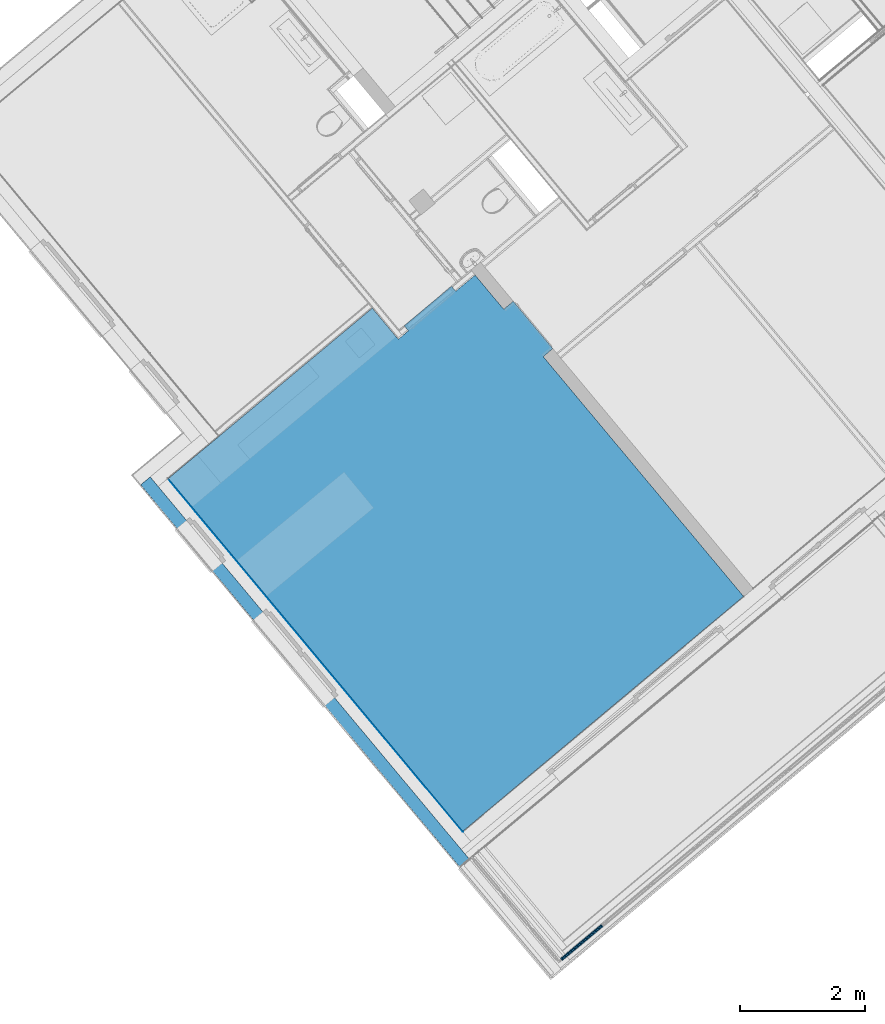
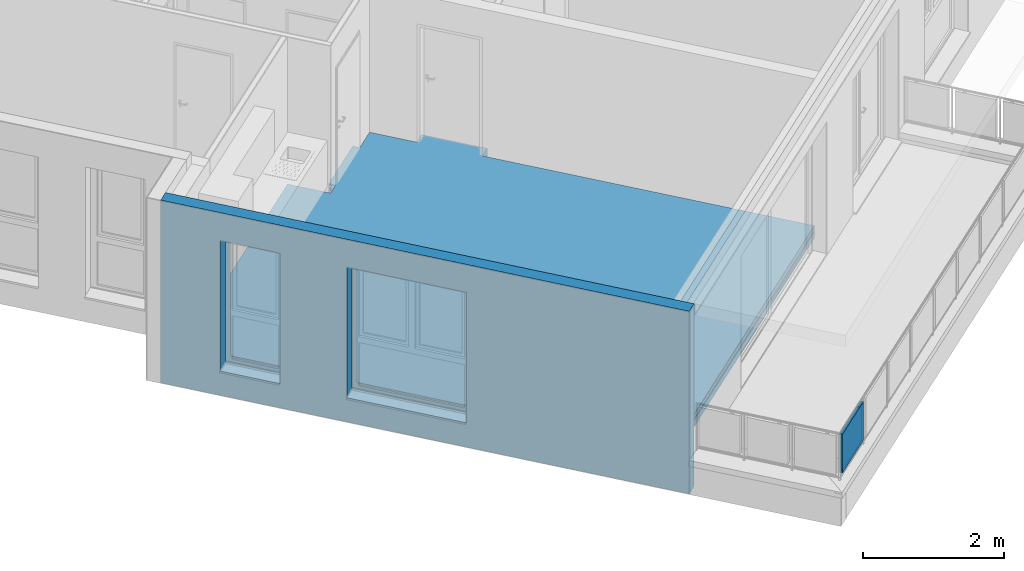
# One storey, part 15 of 50: 8 building element parts, 2 openings, 3 elements without a shape of their own.
"""IFC4 building model written with IfcOpenShell, lengths in metres."""

from ifc_helpers import new_model, entity, si_unit, converted_unit, derived_unit, direction, frame, origin_with_axes, place, context, subcontext, project, spatial, polygons, material, type_object, element, aggregate, save


model = new_model("IFC4")

# Units and contexts
model_context = context("Model", 3, precision=1e-05, world=origin_with_axes(), true_north=direction((0.0, 1.0)))
body_context = subcontext(model_context, "Body", "Model", "MODEL_VIEW")
ifc_project = project(units=[si_unit("LENGTHUNIT", "METRE"), si_unit("AREAUNIT", "SQUARE_METRE"), si_unit("VOLUMEUNIT", "CUBIC_METRE"), converted_unit("PLANEANGLEUNIT", "DEGREE", entity("IfcPlaneAngleMeasure", 0.0174532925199), si_unit("PLANEANGLEUNIT", "RADIAN"), dimensions=[0, 0, 0, 0, 0, 0, 0]), converted_unit("TIMEUNIT", "Year", entity("IfcTimeMeasure", 31556926.0), si_unit("TIMEUNIT", "SECOND"), dimensions=[0, 0, 1, 0, 0, 0, 0]), si_unit("MASSUNIT", "GRAM", prefix="KILO"), si_unit("THERMODYNAMICTEMPERATUREUNIT", "DEGREE_CELSIUS"), si_unit("LUMINOUSINTENSITYUNIT", "LUMEN"), si_unit("ENERGYUNIT", "JOULE", prefix="MEGA"), derived_unit("THERMALCONDUCTANCEUNIT", [(si_unit("POWERUNIT", "WATT"), 1), (si_unit("LENGTHUNIT", "METRE"), -1), (si_unit("THERMODYNAMICTEMPERATUREUNIT", "KELVIN"), -1)]), derived_unit("SPECIFICHEATCAPACITYUNIT", [(si_unit("ENERGYUNIT", "JOULE"), 1), (si_unit("MASSUNIT", "GRAM", prefix="KILO"), -1), (si_unit("THERMODYNAMICTEMPERATUREUNIT", "KELVIN"), -1)]), derived_unit("MASSDENSITYUNIT", [(si_unit("MASSUNIT", "GRAM", prefix="KILO"), 1), (si_unit("VOLUMEUNIT", "CUBIC_METRE"), -1)])], contexts=[model_context])

# Site, building, storey
site_placement = place(None, frame((-0.00153261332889, -0.00661245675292, 0.0), z_axis=(0.0, 0.0, 1.0), x_axis=(1.0, 0.0, 0.0)))
site = spatial("IfcSite", under=ifc_project, at=site_placement, Name="Site", CompositionType="ELEMENT")
building_placement = place(site_placement, origin_with_axes())
building = spatial("IfcBuilding", under=site, at=building_placement, Name="Building", CompositionType="ELEMENT")
storey_placement = place(building_placement, frame((0.0, 0.0, 2.74), z_axis=(0.0, 0.0, 1.0), x_axis=(1.0, 0.0, 0.0)))
storey = spatial("IfcBuildingStorey", under=building, at=storey_placement, Name="OG1", CompositionType="ELEMENT", Elevation=2.74)

# Wall, openings, building element parts
wall_type = type_object("IfcWallType", Name="AW EG 420", PredefinedType="NOTDEFINED")
wall_placement = place(storey_placement, frame((-6.29613032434, 14.5060652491, -0.2), z_axis=(0.0, 0.0, 1.0), x_axis=(0.640908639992, -0.767617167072, 0.0)))
wall = element("IfcWall", 1, at=wall_placement, inside=storey, type_object=wall_type, Name="Wand-003", PredefinedType="NOTDEFINED")
opening_1_placement = place(wall_placement, frame((3.93119741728, 0.0, 0.42), z_axis=(0.0, 0.0, 1.0), x_axis=(1.0, 0.0, 0.0)))
element("IfcOpeningElement", 2, at=opening_1_placement, cuts=wall, Name="Fenster-001", context=body_context, identifier="Reference", shape_type="Tessellation", body=[
    polygons([(0.9, 0.215, 0.0), (0.9, 0.215, 2.26), (0.9, -4.04027070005, 2.26), (0.9, -4.04027070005, 0.0), (0.9, 4.46027070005, 0.0), (0.9, 4.46027070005, 2.26), (-0.9, 0.215, 2.26), (-0.9, -4.04027070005, 2.26), (-0.9, 4.46027070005, 2.26), (-0.9, -4.04027070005, 0.0), (-0.9, 0.215, 0.0), (-0.9, 4.46027070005, 0.0)], [[[1, 2, 3, 4]], [[2, 1, 5, 6]], [[7, 8, 3, 2, 6, 9]], [[8, 10, 4, 3]], [[1, 4, 10, 11, 12, 5]], [[6, 5, 12, 9]], [[7, 11, 10, 8]], [[11, 7, 9, 12]]], closed=True),
])
opening_2_placement = place(wall_placement, frame((1.57118282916, 0.0, 0.42), z_axis=(0.0, 0.0, 1.0), x_axis=(1.0, 0.0, 0.0)))
element("IfcOpeningElement", 3, at=opening_2_placement, cuts=wall, Name="Fenster-001", context=body_context, identifier="Reference", shape_type="Tessellation", body=[
    polygons([(0.45, 0.215, 0.0), (0.45, 0.215, 2.26), (0.45, -4.04027070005, 2.26), (0.45, -4.04027070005, 0.0), (0.45, 4.46027070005, 0.0), (0.45, 4.46027070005, 2.26), (-0.45, 0.215, 2.26), (-0.45, -4.04027070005, 2.26), (-0.45, 4.46027070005, 2.26), (-0.45, -4.04027070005, 0.0), (-0.45, 0.215, 0.0), (-0.45, 4.46027070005, 0.0)], [[[1, 2, 3, 4]], [[2, 1, 5, 6]], [[7, 8, 3, 2, 6, 9]], [[8, 10, 4, 3]], [[1, 4, 10, 11, 12, 5]], [[6, 5, 12, 9]], [[7, 11, 10, 8]], [[11, 7, 9, 12]]], closed=True),
])
ifc_material_1 = material(Name="Zementputz")
building_element_part_1_placement = place(wall_placement, origin_with_axes())
building_element_part_1 = element("IfcBuildingElementPart", 4, at=building_element_part_1_placement, material=ifc_material_1, Name="Zementputz", PredefinedType="NOTDEFINED", context=body_context, shape_type="Tessellation", body=[
    polygons([(0.420878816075, 0.415, 0.2), (7.79492595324, 0.415, 0.2), (7.79492595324, 0.415, 2.96), (0.420878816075, 0.415, 2.96), (3.03119741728, 0.415, 2.68), (4.83119741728, 0.415, 2.68), (4.83119741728, 0.415, 0.42), (3.03119741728, 0.415, 0.42), (1.12118282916, 0.415, 0.42), (1.12118282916, 0.415, 2.68), (2.02118282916, 0.415, 2.68), (2.02118282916, 0.415, 0.42), (0.420889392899, 0.42, 0.2), (7.79492073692, 0.42, 0.2), (7.79492073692, 0.42, 2.96), (0.420889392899, 0.42, 2.96), (4.83119741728, 0.42, 2.68), (3.03119741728, 0.42, 2.68), (4.83119741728, 0.42, 0.42), (3.03119741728, 0.42, 0.42), (1.12118282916, 0.42, 0.42), (1.12118282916, 0.42, 2.68), (2.02118282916, 0.42, 2.68), (2.02118282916, 0.42, 0.42)], [[[1, 2, 3, 4], [5, 6, 7, 8], [9, 10, 11, 12]], [[2, 1, 13, 14]], [[2, 14, 15, 3]], [[16, 4, 3, 15]], [[13, 1, 4, 16]], [[17, 6, 5, 18]], [[19, 7, 6, 17]], [[20, 8, 7, 19]], [[18, 5, 8, 20]], [[21, 22, 10, 9]], [[22, 23, 11, 10]], [[23, 24, 12, 11]], [[24, 21, 9, 12]], [[14, 13, 16, 15], [19, 17, 18, 20], [21, 24, 23, 22]]], closed=True),
])
ifc_material_2 = material(Name="EPS 1")
building_element_part_2_placement = place(wall_placement, origin_with_axes())
building_element_part_2 = element("IfcBuildingElementPart", 5, at=building_element_part_2_placement, material=ifc_material_2, Name="EPS 1", PredefinedType="NOTDEFINED", context=body_context, shape_type="Tessellation", body=[
    polygons([(0.215032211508, 0.015, 3.16), (0.215032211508, 0.015, 0.0), (8.19534347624, 0.015, 0.0), (8.19534347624, 0.015, 3.16), (3.03119741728, 0.015, 2.68), (4.83119741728, 0.015, 2.68), (4.83119741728, 0.015, 0.42), (3.03119741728, 0.015, 0.42), (1.12118282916, 0.015, 0.42), (1.12118282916, 0.015, 2.68), (2.02118282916, 0.015, 2.68), (2.02118282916, 0.015, 0.42), (0.21545528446, 0.215, 3.16), (0.21545528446, 0.215, 0.0), (8.09014223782, 0.214862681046, 0.0), (8.19513496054, 0.214868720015, 0.0), (8.09014213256, 0.215, 0.0), (8.19513496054, 0.214868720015, 0.2), (8.19513482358, 0.215, 0.2), (8.19513482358, 0.215, 2.96), (8.19513496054, 0.214868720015, 2.96), (8.19513496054, 0.214868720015, 3.16), (8.09014223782, 0.214862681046, 3.16), (8.09014209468, 0.215, 3.16), (4.83119741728, 0.215, 2.68), (3.03119741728, 0.215, 2.68), (4.83119741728, 0.215, 0.42), (3.03119741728, 0.215, 0.42), (1.12118282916, 0.215, 0.42), (1.12118282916, 0.215, 2.68), (2.02118282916, 0.215, 2.68), (2.02118282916, 0.215, 0.42), (8.09014213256, 0.215, 0.2), (8.09014209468, 0.215, 2.96), (8.09014223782, 0.214862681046, 0.2), (8.09014223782, 0.214862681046, 2.96)], [[[1, 2, 3, 4], [5, 6, 7, 8], [9, 10, 11, 12]], [[2, 1, 13, 14]], [[15, 16, 3, 2, 14, 17]], [[4, 3, 16, 18, 19, 20, 21, 22]], [[23, 24, 13, 1, 4, 22]], [[25, 6, 5, 26]], [[27, 7, 6, 25]], [[28, 8, 7, 27]], [[26, 5, 8, 28]], [[29, 30, 10, 9]], [[30, 31, 11, 10]], [[31, 32, 12, 11]], [[32, 29, 9, 12]], [[20, 19, 33, 17, 14, 13, 24, 34], [27, 25, 26, 28], [29, 32, 31, 30]], [[15, 35, 18, 16]], [[35, 15, 17, 33]], [[18, 35, 33, 19]], [[34, 36, 21, 20]], [[21, 36, 23, 22]], [[23, 36, 34, 24]]], closed=True),
])
aggregate(wall, [building_element_part_1, building_element_part_2])

# Covering, building element parts
covering_type = type_object("IfcCoveringType", Name="DE 01 Decke Wohnung/Wohnung Parkett 220", PredefinedType="NOTDEFINED")
covering_placement = place(storey_placement, frame((-5.70397946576, 14.4521649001, 0.22), z_axis=(0.0, 0.0, 1.0), x_axis=(1.0, 0.0, 0.0)))
covering = element("IfcCovering", 6, at=covering_placement, inside=storey, type_object=covering_type, Name="Decke-008", PredefinedType="NOTDEFINED")
ifc_material_3 = material(Name="Parkett")
building_element_part_3_placement = place(covering_placement, origin_with_axes())
building_element_part_3 = element("IfcBuildingElementPart", 7, at=building_element_part_3_placement, material=ifc_material_3, Name="Parkett", PredefinedType="NOTDEFINED", context=body_context, shape_type="Tessellation", body=[
    polygons([(0.0, 0.0, 0.0), (0.0, 0.0, -0.015), (4.72287580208, -5.65659490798, -0.015), (4.72287580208, -5.65659490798, 0.0), (0.816505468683, 0.678801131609, 0.0), (0.816505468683, 0.678801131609, -0.015), (9.22431998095, -1.89021530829, -0.015), (0.815654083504, 0.679820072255, -0.015), (3.27141938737, 2.73185313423, -0.015), (3.68817916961, 2.23309701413, -0.015), (3.84896946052, 2.36745312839, -0.015), (3.78164240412, 2.4480265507, -0.015), (4.54133474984, 3.08282396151, -0.015), (4.60866166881, 3.00225040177, -0.015), (4.91929369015, 3.26181401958, -0.015), (5.37753149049, 2.71341900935, -0.015), (5.53100473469, 2.84166079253, -0.015), (6.16580214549, 2.08196858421, -0.015), (6.01232903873, 1.9537266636, -0.015), (9.22431998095, -1.89021530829, 0.0), (0.815654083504, 0.679820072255, 0.0), (6.01232903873, 1.9537266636, 0.0), (6.16580214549, 2.08196858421, 0.0), (5.53100473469, 2.84166079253, 0.0), (5.37753149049, 2.71341900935, 0.0), (4.91929369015, 3.26181401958, 0.0), (4.60866166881, 3.00225040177, 0.0), (4.54133474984, 3.08282396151, 0.0), (3.78164240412, 2.4480265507, 0.0), (3.84896946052, 2.36745312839, 0.0), (3.68817916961, 2.23309701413, 0.0), (3.27141938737, 2.73185313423, 0.0)], [[[1, 2, 3, 4]], [[5, 6, 2, 1]], [[7, 3, 2, 6, 8, 9, 10, 11, 12, 13, 14, 15, 16, 17, 18, 19]], [[4, 3, 7, 20]], [[21, 5, 1, 4, 20, 22, 23, 24, 25, 26, 27, 28, 29, 30, 31, 32]], [[21, 8, 6, 5]], [[32, 9, 8, 21]], [[31, 10, 9, 32]], [[30, 11, 10, 31]], [[29, 12, 11, 30]], [[28, 13, 12, 29]], [[27, 14, 13, 28]], [[26, 15, 14, 27]], [[25, 16, 15, 26]], [[24, 17, 16, 25]], [[23, 18, 17, 24]], [[22, 19, 18, 23]], [[20, 7, 19, 22]]], closed=True),
])
ifc_material_4 = material(Name="Estrich")
building_element_part_4_placement = place(covering_placement, origin_with_axes())
building_element_part_4 = element("IfcBuildingElementPart", 8, at=building_element_part_4_placement, material=ifc_material_4, Name="Estrich", PredefinedType="NOTDEFINED", context=body_context, shape_type="Tessellation", body=[
    polygons([(0.0, 0.0, -0.015), (0.0, 0.0, -0.08), (4.72287580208, -5.65659490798, -0.08), (4.72287580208, -5.65659490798, -0.015), (0.816505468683, 0.678801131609, -0.015), (0.816505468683, 0.678801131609, -0.08), (9.22431998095, -1.89021530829, -0.08), (0.815654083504, 0.679820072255, -0.08), (3.27141938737, 2.73185313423, -0.08), (3.68817916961, 2.23309701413, -0.08), (3.84896946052, 2.36745312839, -0.08), (3.78164240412, 2.4480265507, -0.08), (4.54133474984, 3.08282396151, -0.08), (4.60866166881, 3.00225040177, -0.08), (4.91929369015, 3.26181401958, -0.08), (5.37753149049, 2.71341900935, -0.08), (5.53100473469, 2.84166079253, -0.08), (6.16580214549, 2.08196858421, -0.08), (6.01232903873, 1.9537266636, -0.08), (9.22431998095, -1.89021530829, -0.015), (0.815654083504, 0.679820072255, -0.015), (6.01232903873, 1.9537266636, -0.015), (6.16580214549, 2.08196858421, -0.015), (5.53100473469, 2.84166079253, -0.015), (5.37753149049, 2.71341900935, -0.015), (4.91929369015, 3.26181401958, -0.015), (4.60866166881, 3.00225040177, -0.015), (4.54133474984, 3.08282396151, -0.015), (3.78164240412, 2.4480265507, -0.015), (3.84896946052, 2.36745312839, -0.015), (3.68817916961, 2.23309701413, -0.015), (3.27141938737, 2.73185313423, -0.015)], [[[1, 2, 3, 4]], [[5, 6, 2, 1]], [[7, 3, 2, 6, 8, 9, 10, 11, 12, 13, 14, 15, 16, 17, 18, 19]], [[4, 3, 7, 20]], [[21, 5, 1, 4, 20, 22, 23, 24, 25, 26, 27, 28, 29, 30, 31, 32]], [[21, 8, 6, 5]], [[32, 9, 8, 21]], [[31, 10, 9, 32]], [[30, 11, 10, 31]], [[29, 12, 11, 30]], [[28, 13, 12, 29]], [[27, 14, 13, 28]], [[26, 15, 14, 27]], [[25, 16, 15, 26]], [[24, 17, 16, 25]], [[23, 18, 17, 24]], [[22, 19, 18, 23]], [[20, 7, 19, 22]]], closed=True),
])
ifc_material_5 = material(Name="Trittschalldämmung")
building_element_part_5_placement = place(covering_placement, origin_with_axes())
building_element_part_5 = element("IfcBuildingElementPart", 9, at=building_element_part_5_placement, material=ifc_material_5, Name="Trittschalldämmung", PredefinedType="NOTDEFINED", context=body_context, shape_type="Tessellation", body=[
    polygons([(0.0, 0.0, -0.08), (0.0, 0.0, -0.11), (4.72287580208, -5.65659490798, -0.11), (4.72287580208, -5.65659490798, -0.08), (0.816505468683, 0.678801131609, -0.08), (0.816505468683, 0.678801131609, -0.11), (9.22431998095, -1.89021530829, -0.11), (0.815654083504, 0.679820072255, -0.11), (3.27141938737, 2.73185313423, -0.11), (3.68817916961, 2.23309701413, -0.11), (3.84896946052, 2.36745312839, -0.11), (3.78164240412, 2.4480265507, -0.11), (4.54133474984, 3.08282396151, -0.11), (4.60866166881, 3.00225040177, -0.11), (4.91929369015, 3.26181401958, -0.11), (5.37753149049, 2.71341900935, -0.11), (5.53100473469, 2.84166079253, -0.11), (6.16580214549, 2.08196858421, -0.11), (6.01232903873, 1.9537266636, -0.11), (9.22431998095, -1.89021530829, -0.08), (0.815654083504, 0.679820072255, -0.08), (6.01232903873, 1.9537266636, -0.08), (6.16580214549, 2.08196858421, -0.08), (5.53100473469, 2.84166079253, -0.08), (5.37753149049, 2.71341900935, -0.08), (4.91929369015, 3.26181401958, -0.08), (4.60866166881, 3.00225040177, -0.08), (4.54133474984, 3.08282396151, -0.08), (3.78164240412, 2.4480265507, -0.08), (3.84896946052, 2.36745312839, -0.08), (3.68817916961, 2.23309701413, -0.08), (3.27141938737, 2.73185313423, -0.08)], [[[1, 2, 3, 4]], [[5, 6, 2, 1]], [[7, 3, 2, 6, 8, 9, 10, 11, 12, 13, 14, 15, 16, 17, 18, 19]], [[4, 3, 7, 20]], [[21, 5, 1, 4, 20, 22, 23, 24, 25, 26, 27, 28, 29, 30, 31, 32]], [[21, 8, 6, 5]], [[32, 9, 8, 21]], [[31, 10, 9, 32]], [[30, 11, 10, 31]], [[29, 12, 11, 30]], [[28, 13, 12, 29]], [[27, 14, 13, 28]], [[26, 15, 14, 27]], [[25, 16, 15, 26]], [[24, 17, 16, 25]], [[23, 18, 17, 24]], [[22, 19, 18, 23]], [[20, 7, 19, 22]]], closed=True),
])
ifc_material_6 = material(Name="Schüttung")
building_element_part_6_placement = place(covering_placement, origin_with_axes())
building_element_part_6 = element("IfcBuildingElementPart", 10, at=building_element_part_6_placement, material=ifc_material_6, Name="Schüttung", PredefinedType="NOTDEFINED", context=body_context, shape_type="Tessellation", body=[
    polygons([(4.72287580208, -5.65659490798, -0.11), (0.0, 0.0, -0.11), (0.0, 0.0, -0.22), (4.72287580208, -5.65659490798, -0.22), (0.815654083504, 0.679820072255, -0.11), (0.816505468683, 0.678801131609, -0.11), (9.22431998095, -1.89021530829, -0.11), (6.01232903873, 1.9537266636, -0.11), (6.16580214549, 2.08196858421, -0.11), (5.53100473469, 2.84166079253, -0.11), (5.37753149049, 2.71341900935, -0.11), (4.91929369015, 3.26181401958, -0.11), (4.60866166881, 3.00225040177, -0.11), (4.54133474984, 3.08282396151, -0.11), (3.78164240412, 2.4480265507, -0.11), (3.84896946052, 2.36745312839, -0.11), (3.68817916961, 2.23309701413, -0.11), (3.27141938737, 2.73185313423, -0.11), (0.816505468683, 0.678801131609, -0.22), (9.22431998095, -1.89021530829, -0.22), (0.815654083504, 0.679820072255, -0.22), (3.27141938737, 2.73185313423, -0.22), (3.68817916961, 2.23309701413, -0.22), (3.84896946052, 2.36745312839, -0.22), (3.78164240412, 2.4480265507, -0.22), (4.54133474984, 3.08282396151, -0.22), (4.60866166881, 3.00225040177, -0.22), (4.91929369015, 3.26181401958, -0.22), (5.37753149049, 2.71341900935, -0.22), (5.53100473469, 2.84166079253, -0.22), (6.16580214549, 2.08196858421, -0.22), (6.01232903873, 1.9537266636, -0.22)], [[[1, 2, 3, 4]], [[5, 6, 2, 1, 7, 8, 9, 10, 11, 12, 13, 14, 15, 16, 17, 18]], [[2, 6, 19, 3]], [[20, 4, 3, 19, 21, 22, 23, 24, 25, 26, 27, 28, 29, 30, 31, 32]], [[7, 1, 4, 20]], [[6, 5, 21, 19]], [[8, 7, 20, 32]], [[9, 8, 32, 31]], [[10, 9, 31, 30]], [[11, 10, 30, 29]], [[12, 11, 29, 28]], [[13, 12, 28, 27]], [[14, 13, 27, 26]], [[15, 14, 26, 25]], [[16, 15, 25, 24]], [[17, 16, 24, 23]], [[18, 17, 23, 22]], [[5, 18, 22, 21]]], closed=True),
])
aggregate(covering, [building_element_part_3, building_element_part_4, building_element_part_5, building_element_part_6])

# Railing, building element parts
railing_type = type_object("IfcRailingType", Name="Geländerart", PredefinedType="NOTDEFINED")
railing_placement = place(storey_placement, frame((-0.869246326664, 8.34153645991, 0.38), z_axis=(0.0, 0.0, 1.0), x_axis=(1.0, 0.0, 0.0)))
railing = element("IfcRailing", 11, at=railing_placement, inside=storey, type_object=railing_type, Name="Geländer - 001", PredefinedType="NOTDEFINED")
ifc_material_7 = material(Name="Profilit")
building_element_part_7_placement = place(railing_placement, origin_with_axes())
building_element_part_7 = element("IfcBuildingElementPart", 12, at=building_element_part_7_placement, material=ifc_material_7, Name="Profilit", PredefinedType="NOTDEFINED", context=body_context, shape_type="Tessellation", body=[
    polygons([(2.10401614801, -1.05520223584, 0.135), (1.47202293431, -1.58342449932, 0.135), (1.47202293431, -1.58342449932, 0.775), (2.10401614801, -1.05520223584, 0.775), (1.48484898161, -1.59877026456, 0.135), (2.11684219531, -1.07054800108, 0.135), (1.48484898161, -1.59877026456, 0.775), (2.11684219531, -1.07054800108, 0.775)], [[[1, 2, 3, 4]], [[5, 2, 1, 6]], [[7, 3, 2, 5]], [[4, 3, 7, 8]], [[1, 4, 8, 6]], [[7, 5, 6, 8]]], closed=True),
])
ifc_material_8 = material(Name="Aluminium")
building_element_part_8_placement = place(railing_placement, origin_with_axes())
building_element_part_8 = element("IfcBuildingElementPart", 13, at=building_element_part_8_placement, material=ifc_material_8, Name="Aluminium", PredefinedType="NOTDEFINED", context=body_context, shape_type="Tessellation", body=[
    polygons([(1.54205220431, -1.53466846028, 0.12), (1.59576238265, -1.48977729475, 0.12), (1.59576238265, -1.48977729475, 0.095), (1.54205220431, -1.53466846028, 0.095), (1.54525871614, -1.53850490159, 0.12), (1.59896889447, -1.49361373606, 0.12), (1.59896889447, -1.49361373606, 0.095), (1.54525871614, -1.53850490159, 0.095)], [[[1, 2, 3, 4]], [[5, 6, 2, 1]], [[2, 6, 7, 3]], [[4, 3, 7, 8]], [[1, 4, 8, 5]], [[8, 7, 6, 5]]], closed=True),
    polygons([(2.04360641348, -1.11546759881, 0.79), (1.98989623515, -1.16035876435, 0.79), (1.98989623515, -1.16035876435, 0.795), (2.04360641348, -1.11546759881, 0.795), (2.04681292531, -1.11930404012, 0.79), (1.99310274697, -1.16419520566, 0.79), (1.99310274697, -1.16419520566, 0.795), (2.04681292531, -1.11930404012, 0.795)], [[[1, 2, 3, 4]], [[5, 6, 2, 1]], [[2, 6, 7, 3]], [[4, 3, 7, 8]], [[1, 4, 8, 5]], [[8, 7, 6, 5]]], closed=True),
    polygons([(1.48295919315, -1.61989912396, 0.12), (1.45089407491, -1.58153471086, 0.12), (2.10590593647, -1.03407337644, 0.12), (2.13797105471, -1.07243778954, 0.12), (1.49830495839, -1.60707307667, 0.14), (1.48868542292, -1.59556375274, 0.14), (1.48484898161, -1.59877026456, 0.135), (1.47202293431, -1.58342449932, 0.135), (1.47585937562, -1.5802179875, 0.14), (1.46623984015, -1.56870866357, 0.14), (2.09056017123, -1.04689942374, 0.14), (2.09056017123, -1.04689942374, 0.77), (1.46623984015, -1.56870866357, 0.77), (1.46623984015, -1.56870866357, 0.14), (1.45089407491, -1.58153471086, 0.12), (1.45089407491, -1.58153471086, 0.79), (2.10590593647, -1.03407337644, 0.79), (2.13797105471, -1.07243778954, 0.79), (1.48295919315, -1.61989912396, 0.79), (1.48295919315, -1.61989912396, 0.12), (1.49830495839, -1.60707307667, 0.14), (1.49830495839, -1.60707307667, 0.77), (2.12262528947, -1.08526383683, 0.77), (2.12262528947, -1.08526383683, 0.14), (2.113005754, -1.0737545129, 0.14), (2.113005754, -1.0737545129, 0.77), (1.48868542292, -1.59556375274, 0.77), (1.48868542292, -1.59556375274, 0.14), (1.48484898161, -1.59877026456, 0.135), (1.48484898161, -1.59877026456, 0.775), (2.11684219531, -1.07054800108, 0.775), (2.11684219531, -1.07054800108, 0.135), (2.10401614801, -1.05520223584, 0.135), (2.10401614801, -1.05520223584, 0.775), (1.47202293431, -1.58342449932, 0.775), (1.47202293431, -1.58342449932, 0.135), (1.47585937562, -1.5802179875, 0.14), (1.47585937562, -1.5802179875, 0.77), (2.1001797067, -1.05840874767, 0.77), (2.1001797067, -1.05840874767, 0.14)], [[[1, 2, 3, 4]], [[1, 5, 6, 7, 8, 9, 10, 2]], [[2, 10, 11, 12, 13, 14, 15, 16, 17, 3]], [[4, 3, 17, 18]], [[5, 1, 4, 18, 19, 20, 21, 22, 23, 24]], [[6, 5, 24, 25]], [[7, 6, 25, 26, 27, 28, 29, 30, 31, 32]], [[8, 7, 32, 33]], [[9, 8, 33, 34, 35, 36, 37, 38, 39, 40]], [[10, 9, 40, 11]], [[11, 40, 39, 12]], [[12, 39, 38, 13]], [[13, 38, 37, 14]], [[20, 15, 14, 37, 36, 29, 28, 21]], [[19, 16, 15, 20]], [[18, 17, 16, 19]], [[27, 22, 21, 28]], [[26, 23, 22, 27]], [[25, 24, 23, 26]], [[35, 30, 29, 36]], [[34, 31, 30, 35]], [[33, 32, 31, 34]]], closed=True),
])
aggregate(railing, [building_element_part_7, building_element_part_8])

save(model, "model.ifc")
